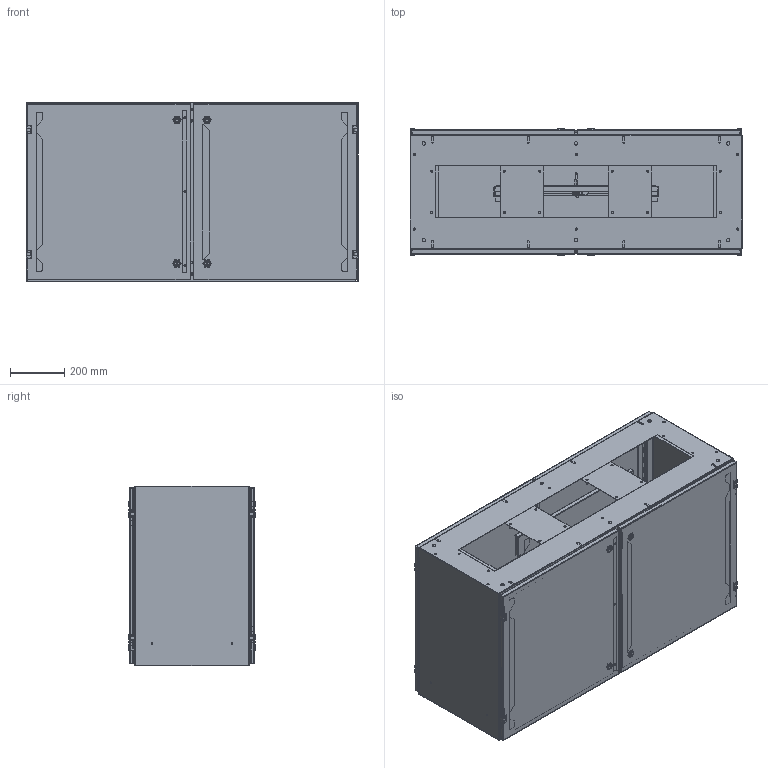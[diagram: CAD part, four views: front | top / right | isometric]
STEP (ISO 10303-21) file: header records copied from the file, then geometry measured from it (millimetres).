
FILE_DESCRIPTION( ( 'Unknown' ), '1' );
FILE_NAME( 'Q:/2000 SERIES/BASE UNITS/WEB DRAWINGS/STEP/2CSBX264818.stp', 'Unknown', ( 'Unknown' ), ( 'Unknown' ), 'XStep 1.0', 'Unknown', ' ' );
FILE_SCHEMA( ( 'CONFIG_CONTROL_DESIGN' ) );
Length unit declared in the file: millimetre
Products named in the file (54): Assem1; Assem2; Assem3; Assem4; Assem5; Assem6; Assem7; Assem8; Assem9; 1; 2; 3; 4; 5; 6; 7; 8; 9; 10; 11; 12; 13; 14; 15; 16; 17; 18; 19; 20; 21; 22; 23; 24; 25; 26; 27; 28; 29; 30; 31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
Bounding box: 1219.2 x 466.49 x 660.4 mm (x, y, z)
Volume: 19127899.7 mm3; surface area: 21036313.6 mm2
Topology: 239 solids, 239 shells, 5571 faces, 13349 edges, 8479 vertices
Faces by surface type: plane 3529, cylinder 1623, bspline 372, torus 27, cone 20
Full cylindrical faces by diameter (mm): 5 x20, 5.537 x18, 5.969 x10, 6 x10, 6.096 x10, 6.35 x135, 7.137 x232, 7.938 x131, 9.804 x9, 9.83 x20, 12.7 x20, 13.335 x10, 15.875 x10, 16.002 x10, 19.5 x10, 19.939 x10, 25.4 x10
Entity records: 39344 total; most frequent: CARTESIAN_POINT 10956, DIRECTION 5306, ORIENTED_EDGE 5096, EDGE_CURVE 2548, AXIS2_PLACEMENT_3D 1847, VERTEX_POINT 1673, LINE 1612, VECTOR 1612
